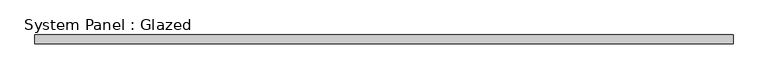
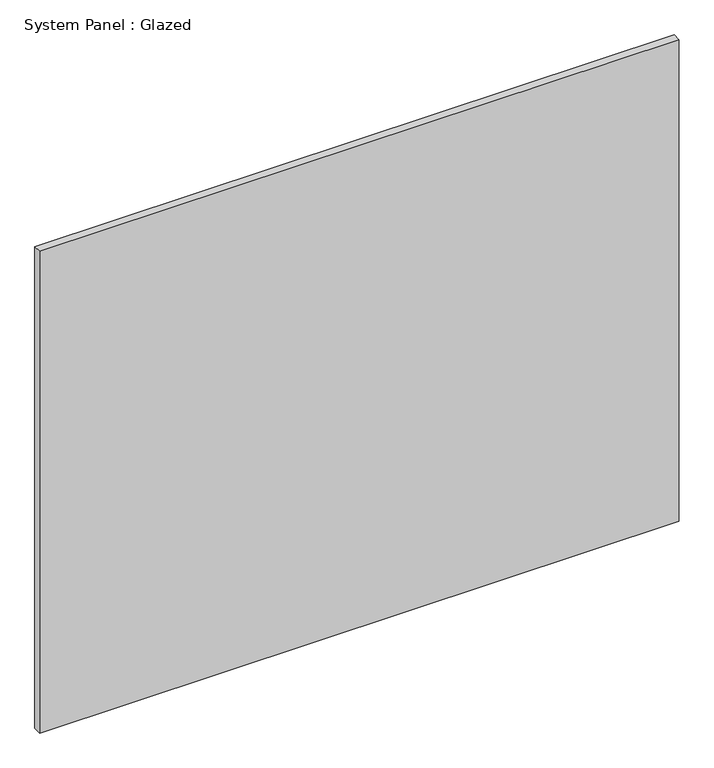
"""IFC4 building model written with IfcOpenShell, lengths in millimetres: plate geometry, System Panel : Glazed."""

from ifc_helpers import new_model, si_unit, origin, origin_with_axes, place, context, project, spatial, polyline, outline, extrude, source, transform, mapped, element, save


def system_panel_glazed_89920602(model_context):
    return source(origin(), model_context, "Body", "SweptSolid", [
        extrude(outline(polyline([(989.2021654, 19.05), (-989.2021654, 19.05), (-989.2021654, 44.45), (989.2021654, 44.45), (989.2021654, 19.05)])), origin_with_axes(), (0.0, 0.0, 1.0), 1574.8),
    ])


if __name__ == "__main__":
    model = new_model("IFC4")
    model_context = context("Model", 3, world=origin())
    ifc_project = project(units=[si_unit("LENGTHUNIT", "METRE", prefix="MILLI")], contexts=[model_context])
    site = spatial("IfcSite", under=ifc_project)
    building = spatial("IfcBuilding", under=site)
    placement = place(None, origin())
    system_panel_glazed_shape = system_panel_glazed_89920602(model_context)
    element("IfcPlate", 1, ObjectType="System Panel : Glazed", at=placement, inside=building, context=model_context, shape_type="MappedRepresentation", body=[
        mapped(system_panel_glazed_shape, transform((0.0, 0.0, 0.0), x_axis=(1.0, 0.0, 0.0), y_axis=(0.0, 1.0, 0.0), z_axis=(0.0, 0.0, 1.0))),
    ])
    save(model, "model.ifc")
